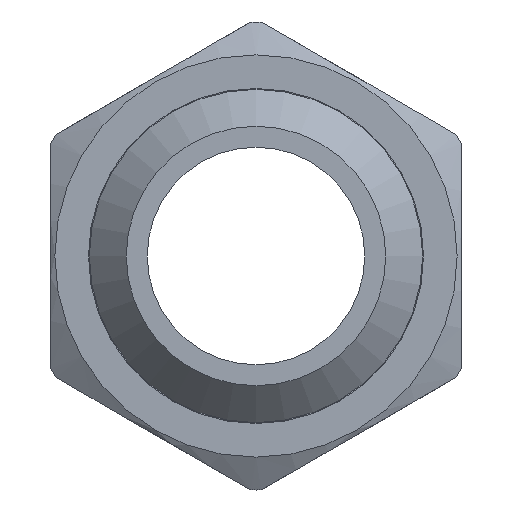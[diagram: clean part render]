
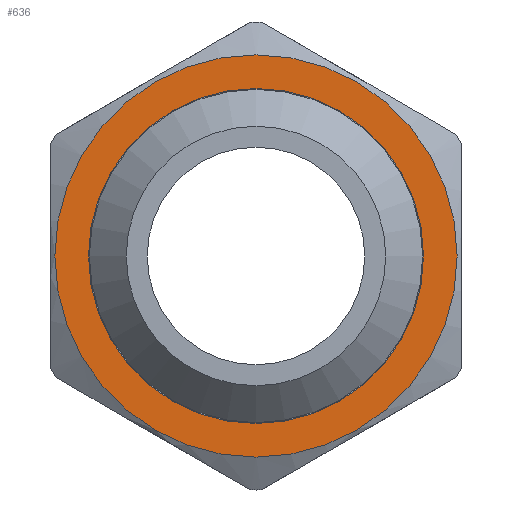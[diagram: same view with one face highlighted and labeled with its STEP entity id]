
A CAD part, front view. The second image highlights one B-rep face of the part: STEP entity #636.
In plain terms, the highlighted planar face has unit normal (0, -1, 0).
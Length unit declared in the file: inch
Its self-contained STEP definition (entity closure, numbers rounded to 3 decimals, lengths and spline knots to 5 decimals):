
#51=FACE_BOUND('',#141,.T.);
#66=PLANE('',#735);
#99=FACE_OUTER_BOUND('',#140,.T.);
#140=EDGE_LOOP('',(#574));
#141=EDGE_LOOP('',(#575,#576));
#245=CIRCLE('',#731,0.245);
#248=CIRCLE('',#736,0.204);
#249=CIRCLE('',#737,0.204);
#312=VERTEX_POINT('',#1150);
#314=VERTEX_POINT('',#1158);
#315=VERTEX_POINT('',#1159);
#400=EDGE_CURVE('',#312,#312,#245,.T.);
#404=EDGE_CURVE('',#314,#315,#248,.T.);
#405=EDGE_CURVE('',#315,#314,#249,.T.);
#574=ORIENTED_EDGE('',*,*,#400,.F.);
#575=ORIENTED_EDGE('',*,*,#404,.F.);
#576=ORIENTED_EDGE('',*,*,#405,.F.);
#636=ADVANCED_FACE('',(#99,#51),#66,.T.);
#731=AXIS2_PLACEMENT_3D('',#1151,#922,#923);
#735=AXIS2_PLACEMENT_3D('',#1157,#931,#932);
#736=AXIS2_PLACEMENT_3D('',#1160,#933,#934);
#737=AXIS2_PLACEMENT_3D('',#1161,#935,#936);
#922=DIRECTION('center_axis',(0.,1.,0.));
#923=DIRECTION('ref_axis',(0.,0.,1.));
#931=DIRECTION('center_axis',(0.,-1.,0.));
#932=DIRECTION('ref_axis',(0.,0.,-1.));
#933=DIRECTION('center_axis',(0.,-1.,0.));
#934=DIRECTION('ref_axis',(1.,0.,0.));
#935=DIRECTION('center_axis',(0.,-1.,0.));
#936=DIRECTION('ref_axis',(1.,0.,0.));
#1150=CARTESIAN_POINT('',(0.,-0.187,-0.245));
#1151=CARTESIAN_POINT('Origin',(0.,-0.187,0.));
#1157=CARTESIAN_POINT('Origin',(0.,-0.187,-0.204));
#1158=CARTESIAN_POINT('',(0.,-0.187,-0.204));
#1159=CARTESIAN_POINT('',(0.,-0.187,0.204));
#1160=CARTESIAN_POINT('Origin',(0.,-0.187,0.));
#1161=CARTESIAN_POINT('Origin',(0.,-0.187,0.));
